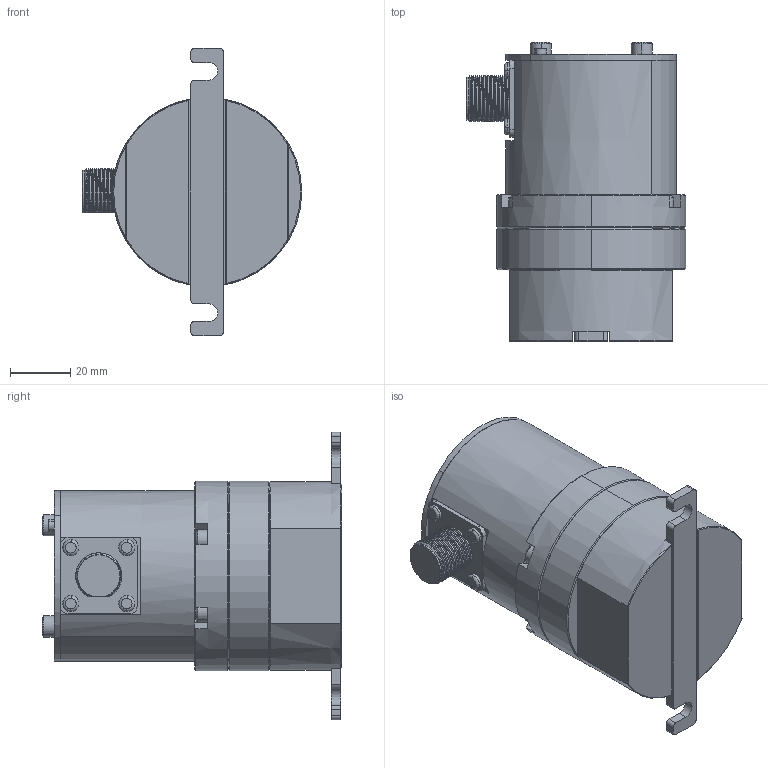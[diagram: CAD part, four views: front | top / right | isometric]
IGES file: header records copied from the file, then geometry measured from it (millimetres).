
Start section:  PTC IGES file: fx250xx-en-a.igs
Global section: file name: fx250xx-en-a.igs; native system: Creo Parametric by PTC Inc.; preprocessor: 2021072; author: qufmd1; organization: Unknown; date: 20220621.145753; units: inch
Bounding box: 72.78 x 99.25 x 95.25 mm (x, y, z)
Surface area: 42983.4 mm2 (no closed solid volume)
Topology: 0 solids, 0 shells, 230 faces, 1124 edges, 1124 vertices
Faces by surface type: revolution 130, bspline 100
